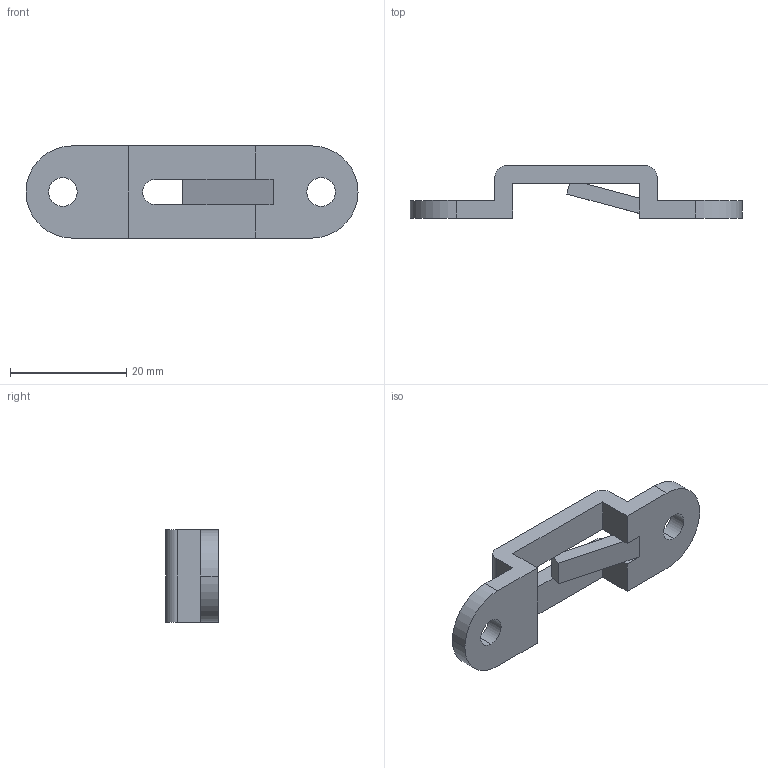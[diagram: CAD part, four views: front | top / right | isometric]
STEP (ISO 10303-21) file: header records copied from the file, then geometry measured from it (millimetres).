
FILE_DESCRIPTION (( 'STEP AP214' ), '1' );
FILE_NAME ('6064_V01_REF_PRT_LOCKING_SINGLE_CLIP.STEP', '2025-04-16T15:29:16', ( '' ), ( '' ), 'SwSTEP 2.0', 'SolidWorks 2025', '' );
FILE_SCHEMA (( 'AUTOMOTIVE_DESIGN' ));
Length unit declared in the file: inch
Products named in the file (1): 6064_V01_REF_PRT_LOCKING_SINGLE_CLIP
Bounding box: 57.15 x 9.04 x 15.88 mm (x, y, z)
Volume: 2844.3 mm3; surface area: 2685.5 mm2
Topology: 1 solids, 1 shells, 36 faces, 110 edges, 70 vertices
Faces by surface type: plane 24, cylinder 12
Entity records: 1265 total; most frequent: ORIENTED_EDGE 220, CARTESIAN_POINT 217, DIRECTION 208, EDGE_CURVE 110, VECTOR 86, LINE 86, VERTEX_POINT 70, AXIS2_PLACEMENT_3D 61
